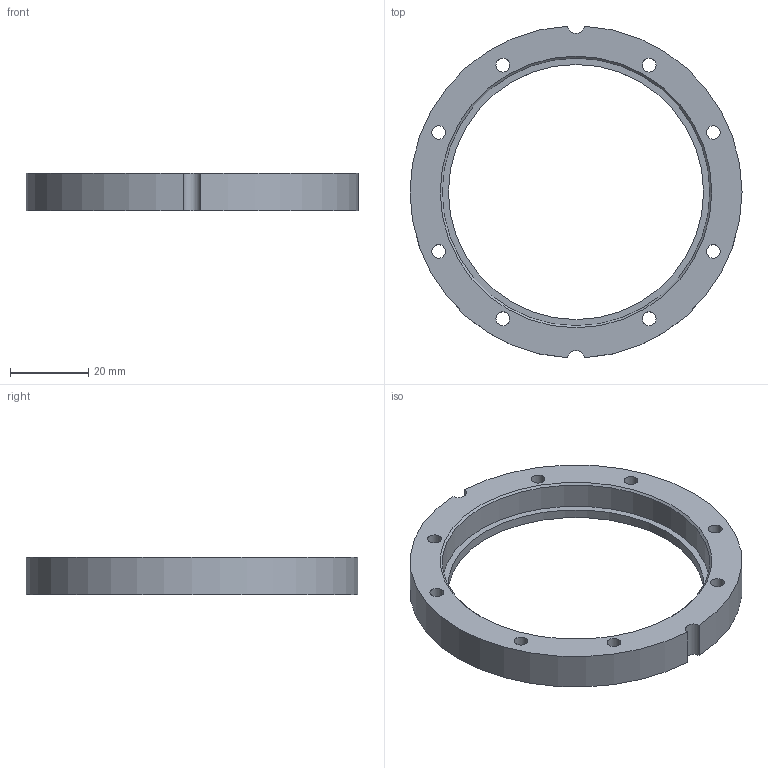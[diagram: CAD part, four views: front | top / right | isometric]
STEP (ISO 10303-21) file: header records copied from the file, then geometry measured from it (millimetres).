
FILE_DESCRIPTION(/* description */ ('Alibre Inc.'),/* implementation_level */ '2;1');
FILE_NAME(/* name */ 'export-5D42A2A3-42ED-4A54-AAFD-1B3150E45446',/* time_stamp */ '2026-01-22T13:46:12+00:00',/* author */ (''),/* organization */ (''),/* preprocessor_version */ 'ST-DEVELOPER v17',/* originating_system */ 'Alibre',/* authorisation */ '');
FILE_SCHEMA (('CONFIG_CONTROL_DESIGN'));
Length unit declared in the file: millimetre
Bounding box: 84.6 x 84.49 x 9.5 mm (x, y, z)
Volume: 18475.7 mm3; surface area: 9883.4 mm2
Topology: 1 solids, 1 shells, 34 faces, 81 edges, 54 vertices
Faces by surface type: cylinder 14, plane 11, cone 9
Full cylindrical faces by diameter (mm): 3.5 x8, 65 x1, 68.2 x1
Entity records: 1029 total; most frequent: CARTESIAN_POINT 169, DIRECTION 153, ORIENTED_EDGE 138, AXIS2_PLACEMENT_3D 72, EDGE_CURVE 69, EDGE_LOOP 68, FACE_BOUND 68, VERTEX_POINT 53
